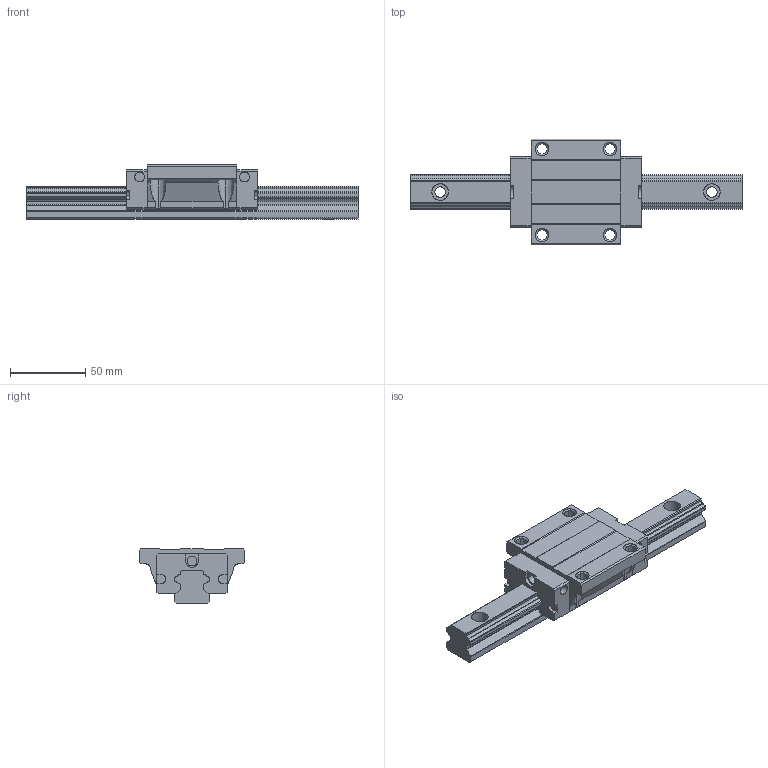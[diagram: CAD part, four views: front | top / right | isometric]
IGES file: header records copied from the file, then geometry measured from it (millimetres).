
Start section: START RECORD GO HERE.
Global section: file name: SBG25_FL.igs; native system: IBM CATIA IGES - CATIA Version 5 Release 16 ; preprocessor: CATIA Version 5 Release 16 ; author: mycom; organization: RD03; date: 20070317.131948; units: millimetre
Bounding box: 220 x 70 x 36 mm (x, y, z)
Surface area: 49844.6 mm2 (no closed solid volume)
Topology: 0 solids, 0 shells, 280 faces, 1568 edges, 1568 vertices
Faces by surface type: revolution 140, plane 134, extrusion 6
